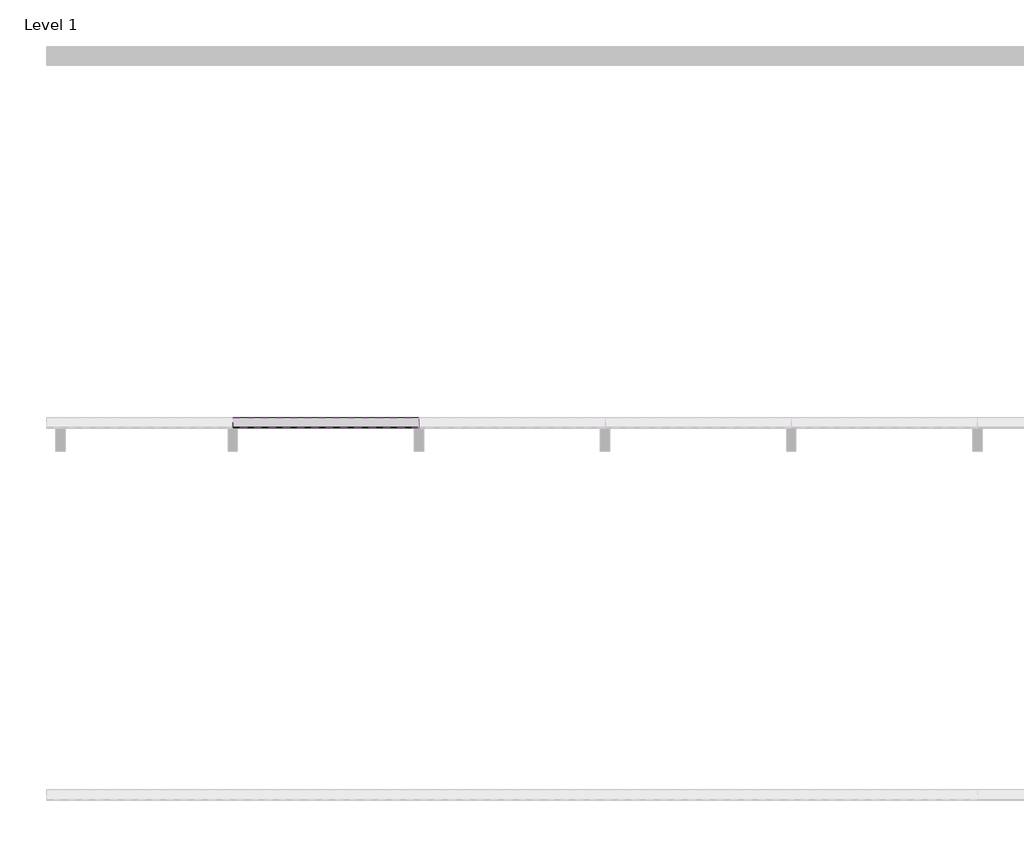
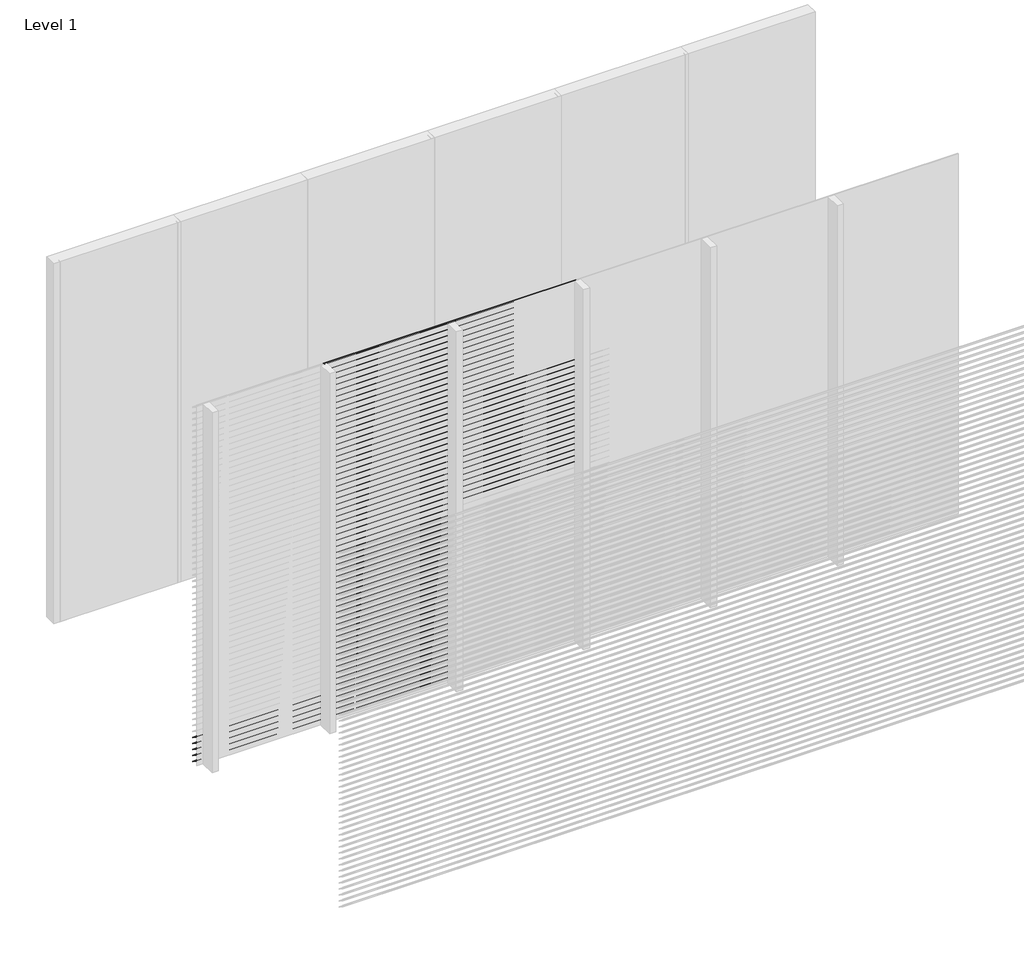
# One storey, part 3 of 18: 96 proxies.
"""IFC4 building model written with IfcOpenShell, lengths in millimetres."""

from ifc_helpers import new_model, si_unit, frame, origin, place, context, project, spatial, polyline, outline, extrude, element, save

model = new_model("IFC4")

# Units and contexts
model_context = context("Model", 3, world=origin())
ifc_project = project(units=[si_unit("LENGTHUNIT", "METRE", prefix="MILLI")], contexts=[model_context])

# Site, building, storey
site = spatial("IfcSite", under=ifc_project)
building = spatial("IfcBuilding", under=site)
storey = spatial("IfcBuildingStorey", under=building, Name="Level 1", Elevation=0.0)

# Proxies
placement = place(None, origin())
element("IfcBuildingElementProxy", 1, Name="Wall Sweeps", at=placement, inside=storey, context=model_context, shape_type="SweptSolid", body=[
    extrude(outline(polyline([(-17995.0, 3000.0), (-17995.0, 2991.0744429), (-17943.0, 2956.0), (-17943.0, 2950.0), (-17997.0, 2986.4234599), (-17997.0, 3000.0), (-17995.0, 3000.0)])), frame((2000.0000001, 0.0, 0.0), z_axis=(1.0, 0.0, 0.0), x_axis=(0.0, 1.0, 0.0)), (0.0, 0.0, 1.0), 999.9999999),
])
element("IfcBuildingElementProxy", 2, Name="Wall Sweeps", at=placement, inside=storey, context=model_context, shape_type="SweptSolid", body=[
    extrude(outline(polyline([(-17995.0, 2950.0), (-17995.0, 2941.0744429), (-17943.0, 2906.0), (-17943.0, 2900.0), (-17997.0, 2936.4234599), (-17997.0, 2950.0), (-17995.0, 2950.0)])), frame((2000.0000001, 0.0, 0.0), z_axis=(1.0, 0.0, 0.0), x_axis=(0.0, 1.0, 0.0)), (0.0, 0.0, 1.0), 999.9999999),
])
element("IfcBuildingElementProxy", 3, Name="Wall Sweeps", at=placement, inside=storey, context=model_context, shape_type="SweptSolid", body=[
    extrude(outline(polyline([(-17995.0, 2900.0), (-17995.0, 2891.0744429), (-17943.0, 2856.0), (-17943.0, 2850.0), (-17997.0, 2886.4234599), (-17997.0, 2900.0), (-17995.0, 2900.0)])), frame((2000.0000001, 0.0, 0.0), z_axis=(1.0, 0.0, 0.0), x_axis=(0.0, 1.0, 0.0)), (0.0, 0.0, 1.0), 999.9999999),
])
element("IfcBuildingElementProxy", 4, Name="Wall Sweeps", at=placement, inside=storey, context=model_context, shape_type="SweptSolid", body=[
    extrude(outline(polyline([(-17995.0, 2850.0), (-17995.0, 2841.0744429), (-17943.0, 2806.0), (-17943.0, 2800.0), (-17997.0, 2836.4234599), (-17997.0, 2850.0), (-17995.0, 2850.0)])), frame((2000.0000001, 0.0, 0.0), z_axis=(1.0, 0.0, 0.0), x_axis=(0.0, 1.0, 0.0)), (0.0, 0.0, 1.0), 999.9999999),
])
element("IfcBuildingElementProxy", 5, Name="Wall Sweeps", at=placement, inside=storey, context=model_context, shape_type="SweptSolid", body=[
    extrude(outline(polyline([(-17995.0, 2800.0), (-17995.0, 2791.0744429), (-17943.0, 2756.0), (-17943.0, 2750.0), (-17997.0, 2786.4234599), (-17997.0, 2800.0), (-17995.0, 2800.0)])), frame((2000.0000001, 0.0, 0.0), z_axis=(1.0, 0.0, 0.0), x_axis=(0.0, 1.0, 0.0)), (0.0, 0.0, 1.0), 999.9999999),
])
element("IfcBuildingElementProxy", 6, Name="Wall Sweeps", at=placement, inside=storey, context=model_context, shape_type="SweptSolid", body=[
    extrude(outline(polyline([(-17995.0, 2750.0), (-17995.0, 2741.0744429), (-17943.0, 2706.0), (-17943.0, 2700.0), (-17997.0, 2736.4234599), (-17997.0, 2750.0), (-17995.0, 2750.0)])), frame((2000.0000001, 0.0, 0.0), z_axis=(1.0, 0.0, 0.0), x_axis=(0.0, 1.0, 0.0)), (0.0, 0.0, 1.0), 999.9999999),
])
element("IfcBuildingElementProxy", 7, Name="Wall Sweeps", at=placement, inside=storey, context=model_context, shape_type="SweptSolid", body=[
    extrude(outline(polyline([(-17995.0, 2700.0), (-17995.0, 2691.0744429), (-17943.0, 2656.0), (-17943.0, 2650.0), (-17997.0, 2686.4234599), (-17997.0, 2700.0), (-17995.0, 2700.0)])), frame((2000.0000001, 0.0, 0.0), z_axis=(1.0, 0.0, 0.0), x_axis=(0.0, 1.0, 0.0)), (0.0, 0.0, 1.0), 999.9999999),
])
element("IfcBuildingElementProxy", 8, Name="Wall Sweeps", at=placement, inside=storey, context=model_context, shape_type="SweptSolid", body=[
    extrude(outline(polyline([(-17995.0, 2650.0), (-17995.0, 2641.0744429), (-17943.0, 2606.0), (-17943.0, 2600.0), (-17997.0, 2636.4234599), (-17997.0, 2650.0), (-17995.0, 2650.0)])), frame((2000.0000001, 0.0, 0.0), z_axis=(1.0, 0.0, 0.0), x_axis=(0.0, 1.0, 0.0)), (0.0, 0.0, 1.0), 999.9999999),
])
element("IfcBuildingElementProxy", 9, Name="Wall Sweeps", at=placement, inside=storey, context=model_context, shape_type="SweptSolid", body=[
    extrude(outline(polyline([(-17995.0, 2600.0), (-17995.0, 2591.0744429), (-17943.0, 2556.0), (-17943.0, 2550.0), (-17997.0, 2586.4234599), (-17997.0, 2600.0), (-17995.0, 2600.0)])), frame((2000.0000001, 0.0, 0.0), z_axis=(1.0, 0.0, 0.0), x_axis=(0.0, 1.0, 0.0)), (0.0, 0.0, 1.0), 999.9999999),
])
element("IfcBuildingElementProxy", 10, Name="Wall Sweeps", at=placement, inside=storey, context=model_context, shape_type="SweptSolid", body=[
    extrude(outline(polyline([(-17995.0, 2550.0), (-17995.0, 2541.0744429), (-17943.0, 2506.0), (-17943.0, 2500.0), (-17997.0, 2536.4234599), (-17997.0, 2550.0), (-17995.0, 2550.0)])), frame((2000.0000001, 0.0, 0.0), z_axis=(1.0, 0.0, 0.0), x_axis=(0.0, 1.0, 0.0)), (0.0, 0.0, 1.0), 999.9999999),
])
element("IfcBuildingElementProxy", 11, Name="Wall Sweeps", at=placement, inside=storey, context=model_context, shape_type="SweptSolid", body=[
    extrude(outline(polyline([(-17995.0, 2500.0), (-17995.0, 2491.0744429), (-17943.0, 2456.0), (-17943.0, 2450.0), (-17997.0, 2486.4234599), (-17997.0, 2500.0), (-17995.0, 2500.0)])), frame((2000.0000001, 0.0, 0.0), z_axis=(1.0, 0.0, 0.0), x_axis=(0.0, 1.0, 0.0)), (0.0, 0.0, 1.0), 999.9999999),
])
element("IfcBuildingElementProxy", 12, Name="Wall Sweeps", at=placement, inside=storey, context=model_context, shape_type="SweptSolid", body=[
    extrude(outline(polyline([(-17995.0, 2450.0), (-17995.0, 2441.0744429), (-17943.0, 2406.0), (-17943.0, 2400.0), (-17997.0, 2436.4234599), (-17997.0, 2450.0), (-17995.0, 2450.0)])), frame((2000.0000001, 0.0, 0.0), z_axis=(1.0, 0.0, 0.0), x_axis=(0.0, 1.0, 0.0)), (0.0, 0.0, 1.0), 999.9999999),
])
element("IfcBuildingElementProxy", 13, Name="Wall Sweeps", at=placement, inside=storey, context=model_context, shape_type="SweptSolid", body=[
    extrude(outline(polyline([(-17995.0, 2400.0), (-17995.0, 2391.0744429), (-17943.0, 2356.0), (-17943.0, 2350.0), (-17997.0, 2386.4234599), (-17997.0, 2400.0), (-17995.0, 2400.0)])), frame((2000.0000001, 0.0, 0.0), z_axis=(1.0, 0.0, 0.0), x_axis=(0.0, 1.0, 0.0)), (0.0, 0.0, 1.0), 999.9999999),
])
element("IfcBuildingElementProxy", 14, Name="Wall Sweeps", at=placement, inside=storey, context=model_context, shape_type="SweptSolid", body=[
    extrude(outline(polyline([(-17995.0, 2350.0), (-17995.0, 2341.0744429), (-17943.0, 2306.0), (-17943.0, 2300.0), (-17997.0, 2336.4234599), (-17997.0, 2350.0), (-17995.0, 2350.0)])), frame((2000.0000001, 0.0, 0.0), z_axis=(1.0, 0.0, 0.0), x_axis=(0.0, 1.0, 0.0)), (0.0, 0.0, 1.0), 999.9999999),
])
element("IfcBuildingElementProxy", 15, Name="Wall Sweeps", at=placement, inside=storey, context=model_context, shape_type="SweptSolid", body=[
    extrude(outline(polyline([(-17995.0, 2300.0), (-17995.0, 2291.0744429), (-17943.0, 2256.0), (-17943.0, 2250.0), (-17997.0, 2286.4234599), (-17997.0, 2300.0), (-17995.0, 2300.0)])), frame((2000.0000001, 0.0, 0.0), z_axis=(1.0, 0.0, 0.0), x_axis=(0.0, 1.0, 0.0)), (0.0, 0.0, 1.0), 999.9999999),
])
element("IfcBuildingElementProxy", 16, Name="Wall Sweeps", at=placement, inside=storey, context=model_context, shape_type="SweptSolid", body=[
    extrude(outline(polyline([(-17995.0, 2250.0), (-17995.0, 2241.0744429), (-17943.0, 2206.0), (-17943.0, 2200.0), (-17997.0, 2236.4234599), (-17997.0, 2250.0), (-17995.0, 2250.0)])), frame((2000.0000001, 0.0, 0.0), z_axis=(1.0, 0.0, 0.0), x_axis=(0.0, 1.0, 0.0)), (0.0, 0.0, 1.0), 999.9999999),
])
element("IfcBuildingElementProxy", 17, Name="Wall Sweeps", at=placement, inside=storey, context=model_context, shape_type="SweptSolid", body=[
    extrude(outline(polyline([(-17995.0, 2200.0), (-17995.0, 2191.0744429), (-17943.0, 2156.0), (-17943.0, 2150.0), (-17997.0, 2186.4234599), (-17997.0, 2200.0), (-17995.0, 2200.0)])), frame((2000.0000001, 0.0, 0.0), z_axis=(1.0, 0.0, 0.0), x_axis=(0.0, 1.0, 0.0)), (0.0, 0.0, 1.0), 999.9999999),
])
element("IfcBuildingElementProxy", 18, Name="Wall Sweeps", at=placement, inside=storey, context=model_context, shape_type="SweptSolid", body=[
    extrude(outline(polyline([(-17995.0, 2150.0), (-17995.0, 2141.0744429), (-17943.0, 2106.0), (-17943.0, 2100.0), (-17997.0, 2136.4234599), (-17997.0, 2150.0), (-17995.0, 2150.0)])), frame((2000.0000001, 0.0, 0.0), z_axis=(1.0, 0.0, 0.0), x_axis=(0.0, 1.0, 0.0)), (0.0, 0.0, 1.0), 999.9999999),
])
element("IfcBuildingElementProxy", 19, Name="Wall Sweeps", at=placement, inside=storey, context=model_context, shape_type="SweptSolid", body=[
    extrude(outline(polyline([(-17995.0, 2100.0), (-17995.0, 2091.0744429), (-17943.0, 2056.0), (-17943.0, 2050.0), (-17997.0, 2086.4234599), (-17997.0, 2100.0), (-17995.0, 2100.0)])), frame((2000.0000001, 0.0, 0.0), z_axis=(1.0, 0.0, 0.0), x_axis=(0.0, 1.0, 0.0)), (0.0, 0.0, 1.0), 999.9999999),
])
element("IfcBuildingElementProxy", 20, Name="Wall Sweeps", at=placement, inside=storey, context=model_context, shape_type="SweptSolid", body=[
    extrude(outline(polyline([(-17995.0, 2050.0), (-17995.0, 2041.0744429), (-17943.0, 2006.0), (-17943.0, 2000.0), (-17997.0, 2036.4234599), (-17997.0, 2050.0), (-17995.0, 2050.0)])), frame((2000.0000001, 0.0, 0.0), z_axis=(1.0, 0.0, 0.0), x_axis=(0.0, 1.0, 0.0)), (0.0, 0.0, 1.0), 999.9999999),
])
element("IfcBuildingElementProxy", 21, Name="Wall Sweeps", at=placement, inside=storey, context=model_context, shape_type="SweptSolid", body=[
    extrude(outline(polyline([(-17995.0, 2000.0), (-17995.0, 1991.0744429), (-17943.0, 1956.0), (-17943.0, 1950.0), (-17997.0, 1986.4234599), (-17997.0, 2000.0), (-17995.0, 2000.0)])), frame((2000.0000001, 0.0, 0.0), z_axis=(1.0, 0.0, 0.0), x_axis=(0.0, 1.0, 0.0)), (0.0, 0.0, 1.0), 999.9999999),
])
element("IfcBuildingElementProxy", 22, Name="Wall Sweeps", at=placement, inside=storey, context=model_context, shape_type="SweptSolid", body=[
    extrude(outline(polyline([(-17995.0, 1950.0), (-17995.0, 1941.0744429), (-17943.0, 1906.0), (-17943.0, 1900.0), (-17997.0, 1936.4234599), (-17997.0, 1950.0), (-17995.0, 1950.0)])), frame((2000.0000001, 0.0, 0.0), z_axis=(1.0, 0.0, 0.0), x_axis=(0.0, 1.0, 0.0)), (0.0, 0.0, 1.0), 999.9999999),
])
element("IfcBuildingElementProxy", 23, Name="Wall Sweeps", at=placement, inside=storey, context=model_context, shape_type="SweptSolid", body=[
    extrude(outline(polyline([(-17995.0, 1900.0), (-17995.0, 1891.0744429), (-17943.0, 1856.0), (-17943.0, 1850.0), (-17997.0, 1886.4234599), (-17997.0, 1900.0), (-17995.0, 1900.0)])), frame((2000.0000001, 0.0, 0.0), z_axis=(1.0, 0.0, 0.0), x_axis=(0.0, 1.0, 0.0)), (0.0, 0.0, 1.0), 999.9999999),
])
element("IfcBuildingElementProxy", 24, Name="Wall Sweeps", at=placement, inside=storey, context=model_context, shape_type="SweptSolid", body=[
    extrude(outline(polyline([(-17995.0, 1850.0), (-17995.0, 1841.0744429), (-17943.0, 1806.0), (-17943.0, 1800.0), (-17997.0, 1836.4234599), (-17997.0, 1850.0), (-17995.0, 1850.0)])), frame((2000.0000001, 0.0, 0.0), z_axis=(1.0, 0.0, 0.0), x_axis=(0.0, 1.0, 0.0)), (0.0, 0.0, 1.0), 999.9999999),
])
element("IfcBuildingElementProxy", 25, Name="Wall Sweeps", at=placement, inside=storey, context=model_context, shape_type="SweptSolid", body=[
    extrude(outline(polyline([(-17995.0, 1800.0), (-17995.0, 1791.0744429), (-17943.0, 1756.0), (-17943.0, 1750.0), (-17997.0, 1786.4234599), (-17997.0, 1800.0), (-17995.0, 1800.0)])), frame((2000.0000001, 0.0, 0.0), z_axis=(1.0, 0.0, 0.0), x_axis=(0.0, 1.0, 0.0)), (0.0, 0.0, 1.0), 999.9999999),
])
element("IfcBuildingElementProxy", 26, Name="Wall Sweeps", at=placement, inside=storey, context=model_context, shape_type="SweptSolid", body=[
    extrude(outline(polyline([(-17995.0, 1750.0), (-17995.0, 1741.0744429), (-17943.0, 1706.0), (-17943.0, 1700.0), (-17997.0, 1736.4234599), (-17997.0, 1750.0), (-17995.0, 1750.0)])), frame((2000.0000001, 0.0, 0.0), z_axis=(1.0, 0.0, 0.0), x_axis=(0.0, 1.0, 0.0)), (0.0, 0.0, 1.0), 999.9999999),
])
element("IfcBuildingElementProxy", 27, Name="Wall Sweeps", at=placement, inside=storey, context=model_context, shape_type="SweptSolid", body=[
    extrude(outline(polyline([(-17995.0, 1700.0), (-17995.0, 1691.0744429), (-17943.0, 1656.0), (-17943.0, 1650.0), (-17997.0, 1686.4234599), (-17997.0, 1700.0), (-17995.0, 1700.0)])), frame((2000.0000001, 0.0, 0.0), z_axis=(1.0, 0.0, 0.0), x_axis=(0.0, 1.0, 0.0)), (0.0, 0.0, 1.0), 999.9999999),
])
element("IfcBuildingElementProxy", 28, Name="Wall Sweeps", at=placement, inside=storey, context=model_context, shape_type="SweptSolid", body=[
    extrude(outline(polyline([(-17995.0, 1650.0), (-17995.0, 1641.0744429), (-17943.0, 1606.0), (-17943.0, 1600.0), (-17997.0, 1636.4234599), (-17997.0, 1650.0), (-17995.0, 1650.0)])), frame((2000.0000001, 0.0, 0.0), z_axis=(1.0, 0.0, 0.0), x_axis=(0.0, 1.0, 0.0)), (0.0, 0.0, 1.0), 999.9999999),
])
element("IfcBuildingElementProxy", 29, Name="Wall Sweeps", at=placement, inside=storey, context=model_context, shape_type="SweptSolid", body=[
    extrude(outline(polyline([(-17995.0, 1600.0), (-17995.0, 1591.0744429), (-17943.0, 1556.0), (-17943.0, 1550.0), (-17997.0, 1586.4234599), (-17997.0, 1600.0), (-17995.0, 1600.0)])), frame((2000.0000001, 0.0, 0.0), z_axis=(1.0, 0.0, 0.0), x_axis=(0.0, 1.0, 0.0)), (0.0, 0.0, 1.0), 999.9999999),
])
element("IfcBuildingElementProxy", 30, Name="Wall Sweeps", at=placement, inside=storey, context=model_context, shape_type="SweptSolid", body=[
    extrude(outline(polyline([(-17995.0, 1550.0), (-17995.0, 1541.0744429), (-17943.0, 1506.0), (-17943.0, 1500.0), (-17997.0, 1536.4234599), (-17997.0, 1550.0), (-17995.0, 1550.0)])), frame((2000.0000001, 0.0, 0.0), z_axis=(1.0, 0.0, 0.0), x_axis=(0.0, 1.0, 0.0)), (0.0, 0.0, 1.0), 999.9999999),
])
element("IfcBuildingElementProxy", 31, Name="Wall Sweeps", at=placement, inside=storey, context=model_context, shape_type="SweptSolid", body=[
    extrude(outline(polyline([(-17995.0, 1500.0), (-17995.0, 1491.0744429), (-17943.0, 1456.0), (-17943.0, 1450.0), (-17997.0, 1486.4234599), (-17997.0, 1500.0), (-17995.0, 1500.0)])), frame((2000.0000001, 0.0, 0.0), z_axis=(1.0, 0.0, 0.0), x_axis=(0.0, 1.0, 0.0)), (0.0, 0.0, 1.0), 999.9999999),
])
element("IfcBuildingElementProxy", 32, Name="Wall Sweeps", at=placement, inside=storey, context=model_context, shape_type="SweptSolid", body=[
    extrude(outline(polyline([(-17995.0, 3000.0), (-17995.0, 2991.0744429), (-17943.0, 2956.0), (-17943.0, 2950.0), (-17997.0, 2986.4234599), (-17997.0, 3000.0), (-17995.0, 3000.0)])), frame((1000.0000002, 0.0, 0.0), z_axis=(1.0, 0.0, 0.0), x_axis=(0.0, 1.0, 0.0)), (0.0, 0.0, 1.0), 999.9999999),
])
element("IfcBuildingElementProxy", 33, Name="Wall Sweeps", at=placement, inside=storey, context=model_context, shape_type="SweptSolid", body=[
    extrude(outline(polyline([(-17995.0, 2950.0), (-17995.0, 2941.0744429), (-17943.0, 2906.0), (-17943.0, 2900.0), (-17997.0, 2936.4234599), (-17997.0, 2950.0), (-17995.0, 2950.0)])), frame((1000.0000002, 0.0, 0.0), z_axis=(1.0, 0.0, 0.0), x_axis=(0.0, 1.0, 0.0)), (0.0, 0.0, 1.0), 999.9999999),
])
element("IfcBuildingElementProxy", 34, Name="Wall Sweeps", at=placement, inside=storey, context=model_context, shape_type="SweptSolid", body=[
    extrude(outline(polyline([(-17995.0, 2900.0), (-17995.0, 2891.0744429), (-17943.0, 2856.0), (-17943.0, 2850.0), (-17997.0, 2886.4234599), (-17997.0, 2900.0), (-17995.0, 2900.0)])), frame((1000.0000002, 0.0, 0.0), z_axis=(1.0, 0.0, 0.0), x_axis=(0.0, 1.0, 0.0)), (0.0, 0.0, 1.0), 999.9999999),
])
element("IfcBuildingElementProxy", 35, Name="Wall Sweeps", at=placement, inside=storey, context=model_context, shape_type="SweptSolid", body=[
    extrude(outline(polyline([(-17995.0, 2850.0), (-17995.0, 2841.0744429), (-17943.0, 2806.0), (-17943.0, 2800.0), (-17997.0, 2836.4234599), (-17997.0, 2850.0), (-17995.0, 2850.0)])), frame((1000.0000002, 0.0, 0.0), z_axis=(1.0, 0.0, 0.0), x_axis=(0.0, 1.0, 0.0)), (0.0, 0.0, 1.0), 999.9999999),
])
element("IfcBuildingElementProxy", 36, Name="Wall Sweeps", at=placement, inside=storey, context=model_context, shape_type="SweptSolid", body=[
    extrude(outline(polyline([(-17995.0, 2800.0), (-17995.0, 2791.0744429), (-17943.0, 2756.0), (-17943.0, 2750.0), (-17997.0, 2786.4234599), (-17997.0, 2800.0), (-17995.0, 2800.0)])), frame((1000.0000002, 0.0, 0.0), z_axis=(1.0, 0.0, 0.0), x_axis=(0.0, 1.0, 0.0)), (0.0, 0.0, 1.0), 999.9999999),
])
element("IfcBuildingElementProxy", 37, Name="Wall Sweeps", at=placement, inside=storey, context=model_context, shape_type="SweptSolid", body=[
    extrude(outline(polyline([(-17995.0, 2750.0), (-17995.0, 2741.0744429), (-17943.0, 2706.0), (-17943.0, 2700.0), (-17997.0, 2736.4234599), (-17997.0, 2750.0), (-17995.0, 2750.0)])), frame((1000.0000002, 0.0, 0.0), z_axis=(1.0, 0.0, 0.0), x_axis=(0.0, 1.0, 0.0)), (0.0, 0.0, 1.0), 999.9999999),
])
element("IfcBuildingElementProxy", 38, Name="Wall Sweeps", at=placement, inside=storey, context=model_context, shape_type="SweptSolid", body=[
    extrude(outline(polyline([(-17995.0, 2700.0), (-17995.0, 2691.0744429), (-17943.0, 2656.0), (-17943.0, 2650.0), (-17997.0, 2686.4234599), (-17997.0, 2700.0), (-17995.0, 2700.0)])), frame((1000.0000002, 0.0, 0.0), z_axis=(1.0, 0.0, 0.0), x_axis=(0.0, 1.0, 0.0)), (0.0, 0.0, 1.0), 999.9999999),
])
element("IfcBuildingElementProxy", 39, Name="Wall Sweeps", at=placement, inside=storey, context=model_context, shape_type="SweptSolid", body=[
    extrude(outline(polyline([(-17995.0, 2650.0), (-17995.0, 2641.0744429), (-17943.0, 2606.0), (-17943.0, 2600.0), (-17997.0, 2636.4234599), (-17997.0, 2650.0), (-17995.0, 2650.0)])), frame((1000.0000002, 0.0, 0.0), z_axis=(1.0, 0.0, 0.0), x_axis=(0.0, 1.0, 0.0)), (0.0, 0.0, 1.0), 999.9999999),
])
element("IfcBuildingElementProxy", 40, Name="Wall Sweeps", at=placement, inside=storey, context=model_context, shape_type="SweptSolid", body=[
    extrude(outline(polyline([(-17995.0, 2600.0), (-17995.0, 2591.0744429), (-17943.0, 2556.0), (-17943.0, 2550.0), (-17997.0, 2586.4234599), (-17997.0, 2600.0), (-17995.0, 2600.0)])), frame((1000.0000002, 0.0, 0.0), z_axis=(1.0, 0.0, 0.0), x_axis=(0.0, 1.0, 0.0)), (0.0, 0.0, 1.0), 999.9999999),
])
element("IfcBuildingElementProxy", 41, Name="Wall Sweeps", at=placement, inside=storey, context=model_context, shape_type="SweptSolid", body=[
    extrude(outline(polyline([(-17995.0, 2550.0), (-17995.0, 2541.0744429), (-17943.0, 2506.0), (-17943.0, 2500.0), (-17997.0, 2536.4234599), (-17997.0, 2550.0), (-17995.0, 2550.0)])), frame((1000.0000002, 0.0, 0.0), z_axis=(1.0, 0.0, 0.0), x_axis=(0.0, 1.0, 0.0)), (0.0, 0.0, 1.0), 999.9999999),
])
element("IfcBuildingElementProxy", 42, Name="Wall Sweeps", at=placement, inside=storey, context=model_context, shape_type="SweptSolid", body=[
    extrude(outline(polyline([(-17995.0, 2500.0), (-17995.0, 2491.0744429), (-17943.0, 2456.0), (-17943.0, 2450.0), (-17997.0, 2486.4234599), (-17997.0, 2500.0), (-17995.0, 2500.0)])), frame((1000.0000002, 0.0, 0.0), z_axis=(1.0, 0.0, 0.0), x_axis=(0.0, 1.0, 0.0)), (0.0, 0.0, 1.0), 999.9999999),
])
element("IfcBuildingElementProxy", 43, Name="Wall Sweeps", at=placement, inside=storey, context=model_context, shape_type="SweptSolid", body=[
    extrude(outline(polyline([(-17995.0, 2450.0), (-17995.0, 2441.0744429), (-17943.0, 2406.0), (-17943.0, 2400.0), (-17997.0, 2436.4234599), (-17997.0, 2450.0), (-17995.0, 2450.0)])), frame((1000.0000002, 0.0, 0.0), z_axis=(1.0, 0.0, 0.0), x_axis=(0.0, 1.0, 0.0)), (0.0, 0.0, 1.0), 999.9999999),
])
element("IfcBuildingElementProxy", 44, Name="Wall Sweeps", at=placement, inside=storey, context=model_context, shape_type="SweptSolid", body=[
    extrude(outline(polyline([(-17995.0, 2400.0), (-17995.0, 2391.0744429), (-17943.0, 2356.0), (-17943.0, 2350.0), (-17997.0, 2386.4234599), (-17997.0, 2400.0), (-17995.0, 2400.0)])), frame((1000.0000002, 0.0, 0.0), z_axis=(1.0, 0.0, 0.0), x_axis=(0.0, 1.0, 0.0)), (0.0, 0.0, 1.0), 999.9999999),
])
element("IfcBuildingElementProxy", 45, Name="Wall Sweeps", at=placement, inside=storey, context=model_context, shape_type="SweptSolid", body=[
    extrude(outline(polyline([(-17995.0, 2350.0), (-17995.0, 2341.0744429), (-17943.0, 2306.0), (-17943.0, 2300.0), (-17997.0, 2336.4234599), (-17997.0, 2350.0), (-17995.0, 2350.0)])), frame((1000.0000002, 0.0, 0.0), z_axis=(1.0, 0.0, 0.0), x_axis=(0.0, 1.0, 0.0)), (0.0, 0.0, 1.0), 999.9999999),
])
element("IfcBuildingElementProxy", 46, Name="Wall Sweeps", at=placement, inside=storey, context=model_context, shape_type="SweptSolid", body=[
    extrude(outline(polyline([(-17995.0, 2300.0), (-17995.0, 2291.0744429), (-17943.0, 2256.0), (-17943.0, 2250.0), (-17997.0, 2286.4234599), (-17997.0, 2300.0), (-17995.0, 2300.0)])), frame((1000.0000002, 0.0, 0.0), z_axis=(1.0, 0.0, 0.0), x_axis=(0.0, 1.0, 0.0)), (0.0, 0.0, 1.0), 999.9999999),
])
element("IfcBuildingElementProxy", 47, Name="Wall Sweeps", at=placement, inside=storey, context=model_context, shape_type="SweptSolid", body=[
    extrude(outline(polyline([(-17995.0, 2250.0), (-17995.0, 2241.0744429), (-17943.0, 2206.0), (-17943.0, 2200.0), (-17997.0, 2236.4234599), (-17997.0, 2250.0), (-17995.0, 2250.0)])), frame((1000.0000002, 0.0, 0.0), z_axis=(1.0, 0.0, 0.0), x_axis=(0.0, 1.0, 0.0)), (0.0, 0.0, 1.0), 999.9999999),
])
element("IfcBuildingElementProxy", 48, Name="Wall Sweeps", at=placement, inside=storey, context=model_context, shape_type="SweptSolid", body=[
    extrude(outline(polyline([(-17995.0, 2200.0), (-17995.0, 2191.0744429), (-17943.0, 2156.0), (-17943.0, 2150.0), (-17997.0, 2186.4234599), (-17997.0, 2200.0), (-17995.0, 2200.0)])), frame((1000.0000002, 0.0, 0.0), z_axis=(1.0, 0.0, 0.0), x_axis=(0.0, 1.0, 0.0)), (0.0, 0.0, 1.0), 999.9999999),
])
element("IfcBuildingElementProxy", 49, Name="Wall Sweeps", at=placement, inside=storey, context=model_context, shape_type="SweptSolid", body=[
    extrude(outline(polyline([(-17995.0, 2150.0), (-17995.0, 2141.0744429), (-17943.0, 2106.0), (-17943.0, 2100.0), (-17997.0, 2136.4234599), (-17997.0, 2150.0), (-17995.0, 2150.0)])), frame((1000.0000002, 0.0, 0.0), z_axis=(1.0, 0.0, 0.0), x_axis=(0.0, 1.0, 0.0)), (0.0, 0.0, 1.0), 999.9999999),
])
element("IfcBuildingElementProxy", 50, Name="Wall Sweeps", at=placement, inside=storey, context=model_context, shape_type="SweptSolid", body=[
    extrude(outline(polyline([(-17995.0, 2100.0), (-17995.0, 2091.0744429), (-17943.0, 2056.0), (-17943.0, 2050.0), (-17997.0, 2086.4234599), (-17997.0, 2100.0), (-17995.0, 2100.0)])), frame((1000.0000002, 0.0, 0.0), z_axis=(1.0, 0.0, 0.0), x_axis=(0.0, 1.0, 0.0)), (0.0, 0.0, 1.0), 999.9999999),
])
element("IfcBuildingElementProxy", 51, Name="Wall Sweeps", at=placement, inside=storey, context=model_context, shape_type="SweptSolid", body=[
    extrude(outline(polyline([(-17995.0, 2050.0), (-17995.0, 2041.0744429), (-17943.0, 2006.0), (-17943.0, 2000.0), (-17997.0, 2036.4234599), (-17997.0, 2050.0), (-17995.0, 2050.0)])), frame((1000.0000002, 0.0, 0.0), z_axis=(1.0, 0.0, 0.0), x_axis=(0.0, 1.0, 0.0)), (0.0, 0.0, 1.0), 999.9999999),
])
element("IfcBuildingElementProxy", 52, Name="Wall Sweeps", at=placement, inside=storey, context=model_context, shape_type="SweptSolid", body=[
    extrude(outline(polyline([(-17995.0, 2000.0), (-17995.0, 1991.0744429), (-17943.0, 1956.0), (-17943.0, 1950.0), (-17997.0, 1986.4234599), (-17997.0, 2000.0), (-17995.0, 2000.0)])), frame((1000.0000002, 0.0, 0.0), z_axis=(1.0, 0.0, 0.0), x_axis=(0.0, 1.0, 0.0)), (0.0, 0.0, 1.0), 999.9999999),
])
element("IfcBuildingElementProxy", 53, Name="Wall Sweeps", at=placement, inside=storey, context=model_context, shape_type="SweptSolid", body=[
    extrude(outline(polyline([(-17995.0, 1950.0), (-17995.0, 1941.0744429), (-17943.0, 1906.0), (-17943.0, 1900.0), (-17997.0, 1936.4234599), (-17997.0, 1950.0), (-17995.0, 1950.0)])), frame((1000.0000002, 0.0, 0.0), z_axis=(1.0, 0.0, 0.0), x_axis=(0.0, 1.0, 0.0)), (0.0, 0.0, 1.0), 999.9999999),
])
element("IfcBuildingElementProxy", 54, Name="Wall Sweeps", at=placement, inside=storey, context=model_context, shape_type="SweptSolid", body=[
    extrude(outline(polyline([(-17995.0, 1900.0), (-17995.0, 1891.0744429), (-17943.0, 1856.0), (-17943.0, 1850.0), (-17997.0, 1886.4234599), (-17997.0, 1900.0), (-17995.0, 1900.0)])), frame((1000.0000002, 0.0, 0.0), z_axis=(1.0, 0.0, 0.0), x_axis=(0.0, 1.0, 0.0)), (0.0, 0.0, 1.0), 999.9999999),
])
element("IfcBuildingElementProxy", 55, Name="Wall Sweeps", at=placement, inside=storey, context=model_context, shape_type="SweptSolid", body=[
    extrude(outline(polyline([(-17995.0, 1850.0), (-17995.0, 1841.0744429), (-17943.0, 1806.0), (-17943.0, 1800.0), (-17997.0, 1836.4234599), (-17997.0, 1850.0), (-17995.0, 1850.0)])), frame((1000.0000002, 0.0, 0.0), z_axis=(1.0, 0.0, 0.0), x_axis=(0.0, 1.0, 0.0)), (0.0, 0.0, 1.0), 999.9999999),
])
element("IfcBuildingElementProxy", 56, Name="Wall Sweeps", at=placement, inside=storey, context=model_context, shape_type="SweptSolid", body=[
    extrude(outline(polyline([(-17995.0, 1800.0), (-17995.0, 1791.0744429), (-17943.0, 1756.0), (-17943.0, 1750.0), (-17997.0, 1786.4234599), (-17997.0, 1800.0), (-17995.0, 1800.0)])), frame((1000.0000002, 0.0, 0.0), z_axis=(1.0, 0.0, 0.0), x_axis=(0.0, 1.0, 0.0)), (0.0, 0.0, 1.0), 999.9999999),
])
element("IfcBuildingElementProxy", 57, Name="Wall Sweeps", at=placement, inside=storey, context=model_context, shape_type="SweptSolid", body=[
    extrude(outline(polyline([(-17995.0, 1750.0), (-17995.0, 1741.0744429), (-17943.0, 1706.0), (-17943.0, 1700.0), (-17997.0, 1736.4234599), (-17997.0, 1750.0), (-17995.0, 1750.0)])), frame((1000.0000002, 0.0, 0.0), z_axis=(1.0, 0.0, 0.0), x_axis=(0.0, 1.0, 0.0)), (0.0, 0.0, 1.0), 999.9999999),
])
element("IfcBuildingElementProxy", 58, Name="Wall Sweeps", at=placement, inside=storey, context=model_context, shape_type="SweptSolid", body=[
    extrude(outline(polyline([(-17995.0, 1700.0), (-17995.0, 1691.0744429), (-17943.0, 1656.0), (-17943.0, 1650.0), (-17997.0, 1686.4234599), (-17997.0, 1700.0), (-17995.0, 1700.0)])), frame((1000.0000002, 0.0, 0.0), z_axis=(1.0, 0.0, 0.0), x_axis=(0.0, 1.0, 0.0)), (0.0, 0.0, 1.0), 999.9999999),
])
element("IfcBuildingElementProxy", 59, Name="Wall Sweeps", at=placement, inside=storey, context=model_context, shape_type="SweptSolid", body=[
    extrude(outline(polyline([(-17995.0, 1650.0), (-17995.0, 1641.0744429), (-17943.0, 1606.0), (-17943.0, 1600.0), (-17997.0, 1636.4234599), (-17997.0, 1650.0), (-17995.0, 1650.0)])), frame((1000.0000002, 0.0, 0.0), z_axis=(1.0, 0.0, 0.0), x_axis=(0.0, 1.0, 0.0)), (0.0, 0.0, 1.0), 999.9999999),
])
element("IfcBuildingElementProxy", 60, Name="Wall Sweeps", at=placement, inside=storey, context=model_context, shape_type="SweptSolid", body=[
    extrude(outline(polyline([(-17995.0, 1600.0), (-17995.0, 1591.0744429), (-17943.0, 1556.0), (-17943.0, 1550.0), (-17997.0, 1586.4234599), (-17997.0, 1600.0), (-17995.0, 1600.0)])), frame((1000.0000002, 0.0, 0.0), z_axis=(1.0, 0.0, 0.0), x_axis=(0.0, 1.0, 0.0)), (0.0, 0.0, 1.0), 999.9999999),
])
element("IfcBuildingElementProxy", 61, Name="Wall Sweeps", at=placement, inside=storey, context=model_context, shape_type="SweptSolid", body=[
    extrude(outline(polyline([(-17995.0, 1550.0), (-17995.0, 1541.0744429), (-17943.0, 1506.0), (-17943.0, 1500.0), (-17997.0, 1536.4234599), (-17997.0, 1550.0), (-17995.0, 1550.0)])), frame((1000.0000002, 0.0, 0.0), z_axis=(1.0, 0.0, 0.0), x_axis=(0.0, 1.0, 0.0)), (0.0, 0.0, 1.0), 999.9999999),
])
element("IfcBuildingElementProxy", 62, Name="Wall Sweeps", at=placement, inside=storey, context=model_context, shape_type="SweptSolid", body=[
    extrude(outline(polyline([(-17995.0, 1500.0), (-17995.0, 1491.0744429), (-17943.0, 1456.0), (-17943.0, 1450.0), (-17997.0, 1486.4234599), (-17997.0, 1500.0), (-17995.0, 1500.0)])), frame((1000.0000002, 0.0, 0.0), z_axis=(1.0, 0.0, 0.0), x_axis=(0.0, 1.0, 0.0)), (0.0, 0.0, 1.0), 999.9999999),
])
element("IfcBuildingElementProxy", 63, Name="Wall Sweeps", at=placement, inside=storey, context=model_context, shape_type="SweptSolid", body=[
    extrude(outline(polyline([(-17995.0, 1450.0), (-17995.0, 1441.0744429), (-17943.0, 1406.0), (-17943.0, 1400.0), (-17997.0, 1436.4234599), (-17997.0, 1450.0), (-17995.0, 1450.0)])), frame((1000.0000002, 0.0, 0.0), z_axis=(1.0, 0.0, 0.0), x_axis=(0.0, 1.0, 0.0)), (0.0, 0.0, 1.0), 999.9999999),
])
element("IfcBuildingElementProxy", 64, Name="Wall Sweeps", at=placement, inside=storey, context=model_context, shape_type="SweptSolid", body=[
    extrude(outline(polyline([(-17995.0, 1400.0), (-17995.0, 1391.0744429), (-17943.0, 1356.0), (-17943.0, 1350.0), (-17997.0, 1386.4234599), (-17997.0, 1400.0), (-17995.0, 1400.0)])), frame((1000.0000002, 0.0, 0.0), z_axis=(1.0, 0.0, 0.0), x_axis=(0.0, 1.0, 0.0)), (0.0, 0.0, 1.0), 999.9999999),
])
element("IfcBuildingElementProxy", 65, Name="Wall Sweeps", at=placement, inside=storey, context=model_context, shape_type="SweptSolid", body=[
    extrude(outline(polyline([(-17995.0, 1350.0), (-17995.0, 1341.0744429), (-17943.0, 1306.0), (-17943.0, 1300.0), (-17997.0, 1336.4234599), (-17997.0, 1350.0), (-17995.0, 1350.0)])), frame((1000.0000002, 0.0, 0.0), z_axis=(1.0, 0.0, 0.0), x_axis=(0.0, 1.0, 0.0)), (0.0, 0.0, 1.0), 999.9999999),
])
element("IfcBuildingElementProxy", 66, Name="Wall Sweeps", at=placement, inside=storey, context=model_context, shape_type="SweptSolid", body=[
    extrude(outline(polyline([(-17995.0, 1300.0), (-17995.0, 1291.0744429), (-17943.0, 1256.0), (-17943.0, 1250.0), (-17997.0, 1286.4234599), (-17997.0, 1300.0), (-17995.0, 1300.0)])), frame((1000.0000002, 0.0, 0.0), z_axis=(1.0, 0.0, 0.0), x_axis=(0.0, 1.0, 0.0)), (0.0, 0.0, 1.0), 999.9999999),
])
element("IfcBuildingElementProxy", 67, Name="Wall Sweeps", at=placement, inside=storey, context=model_context, shape_type="SweptSolid", body=[
    extrude(outline(polyline([(-17995.0, 1250.0), (-17995.0, 1241.0744429), (-17943.0, 1206.0), (-17943.0, 1200.0), (-17997.0, 1236.4234599), (-17997.0, 1250.0), (-17995.0, 1250.0)])), frame((1000.0000002, 0.0, 0.0), z_axis=(1.0, 0.0, 0.0), x_axis=(0.0, 1.0, 0.0)), (0.0, 0.0, 1.0), 999.9999999),
])
element("IfcBuildingElementProxy", 68, Name="Wall Sweeps", at=placement, inside=storey, context=model_context, shape_type="SweptSolid", body=[
    extrude(outline(polyline([(-17995.0, 1200.0), (-17995.0, 1191.0744429), (-17943.0, 1156.0), (-17943.0, 1150.0), (-17997.0, 1186.4234599), (-17997.0, 1200.0), (-17995.0, 1200.0)])), frame((1000.0000002, 0.0, 0.0), z_axis=(1.0, 0.0, 0.0), x_axis=(0.0, 1.0, 0.0)), (0.0, 0.0, 1.0), 999.9999999),
])
element("IfcBuildingElementProxy", 69, Name="Wall Sweeps", at=placement, inside=storey, context=model_context, shape_type="SweptSolid", body=[
    extrude(outline(polyline([(-17995.0, 1150.0), (-17995.0, 1141.0744429), (-17943.0, 1106.0), (-17943.0, 1100.0), (-17997.0, 1136.4234599), (-17997.0, 1150.0), (-17995.0, 1150.0)])), frame((1000.0000002, 0.0, 0.0), z_axis=(1.0, 0.0, 0.0), x_axis=(0.0, 1.0, 0.0)), (0.0, 0.0, 1.0), 999.9999999),
])
element("IfcBuildingElementProxy", 70, Name="Wall Sweeps", at=placement, inside=storey, context=model_context, shape_type="SweptSolid", body=[
    extrude(outline(polyline([(-17995.0, 1100.0), (-17995.0, 1091.0744429), (-17943.0, 1056.0), (-17943.0, 1050.0), (-17997.0, 1086.4234599), (-17997.0, 1100.0), (-17995.0, 1100.0)])), frame((1000.0000002, 0.0, 0.0), z_axis=(1.0, 0.0, 0.0), x_axis=(0.0, 1.0, 0.0)), (0.0, 0.0, 1.0), 999.9999999),
])
element("IfcBuildingElementProxy", 71, Name="Wall Sweeps", at=placement, inside=storey, context=model_context, shape_type="SweptSolid", body=[
    extrude(outline(polyline([(-17995.0, 1050.0), (-17995.0, 1041.0744429), (-17943.0, 1006.0), (-17943.0, 1000.0), (-17997.0, 1036.4234599), (-17997.0, 1050.0), (-17995.0, 1050.0)])), frame((1000.0000002, 0.0, 0.0), z_axis=(1.0, 0.0, 0.0), x_axis=(0.0, 1.0, 0.0)), (0.0, 0.0, 1.0), 999.9999999),
])
element("IfcBuildingElementProxy", 72, Name="Wall Sweeps", at=placement, inside=storey, context=model_context, shape_type="SweptSolid", body=[
    extrude(outline(polyline([(-17995.0, 1000.0), (-17995.0, 991.0744429), (-17943.0, 956.0), (-17943.0, 950.0), (-17997.0, 986.4234599), (-17997.0, 1000.0), (-17995.0, 1000.0)])), frame((1000.0000002, 0.0, 0.0), z_axis=(1.0, 0.0, 0.0), x_axis=(0.0, 1.0, 0.0)), (0.0, 0.0, 1.0), 999.9999999),
])
element("IfcBuildingElementProxy", 73, Name="Wall Sweeps", at=placement, inside=storey, context=model_context, shape_type="SweptSolid", body=[
    extrude(outline(polyline([(-17995.0, 950.0), (-17995.0, 941.0744429), (-17943.0, 906.0), (-17943.0, 900.0), (-17997.0, 936.4234599), (-17997.0, 950.0), (-17995.0, 950.0)])), frame((1000.0000002, 0.0, 0.0), z_axis=(1.0, 0.0, 0.0), x_axis=(0.0, 1.0, 0.0)), (0.0, 0.0, 1.0), 999.9999999),
])
element("IfcBuildingElementProxy", 74, Name="Wall Sweeps", at=placement, inside=storey, context=model_context, shape_type="SweptSolid", body=[
    extrude(outline(polyline([(-17995.0, 900.0), (-17995.0, 891.0744429), (-17943.0, 856.0), (-17943.0, 850.0), (-17997.0, 886.4234599), (-17997.0, 900.0), (-17995.0, 900.0)])), frame((1000.0000002, 0.0, 0.0), z_axis=(1.0, 0.0, 0.0), x_axis=(0.0, 1.0, 0.0)), (0.0, 0.0, 1.0), 999.9999999),
])
element("IfcBuildingElementProxy", 75, Name="Wall Sweeps", at=placement, inside=storey, context=model_context, shape_type="SweptSolid", body=[
    extrude(outline(polyline([(-17995.0, 850.0), (-17995.0, 841.0744429), (-17943.0, 806.0), (-17943.0, 800.0), (-17997.0, 836.4234599), (-17997.0, 850.0), (-17995.0, 850.0)])), frame((1000.0000002, 0.0, 0.0), z_axis=(1.0, 0.0, 0.0), x_axis=(0.0, 1.0, 0.0)), (0.0, 0.0, 1.0), 999.9999999),
])
element("IfcBuildingElementProxy", 76, Name="Wall Sweeps", at=placement, inside=storey, context=model_context, shape_type="SweptSolid", body=[
    extrude(outline(polyline([(-17995.0, 800.0), (-17995.0, 791.0744429), (-17943.0, 756.0), (-17943.0, 750.0), (-17997.0, 786.4234599), (-17997.0, 800.0), (-17995.0, 800.0)])), frame((1000.0000002, 0.0, 0.0), z_axis=(1.0, 0.0, 0.0), x_axis=(0.0, 1.0, 0.0)), (0.0, 0.0, 1.0), 999.9999999),
])
element("IfcBuildingElementProxy", 77, Name="Wall Sweeps", at=placement, inside=storey, context=model_context, shape_type="SweptSolid", body=[
    extrude(outline(polyline([(-17995.0, 750.0), (-17995.0, 741.0744429), (-17943.0, 706.0), (-17943.0, 700.0), (-17997.0, 736.4234599), (-17997.0, 750.0), (-17995.0, 750.0)])), frame((1000.0000002, 0.0, 0.0), z_axis=(1.0, 0.0, 0.0), x_axis=(0.0, 1.0, 0.0)), (0.0, 0.0, 1.0), 999.9999999),
])
element("IfcBuildingElementProxy", 78, Name="Wall Sweeps", at=placement, inside=storey, context=model_context, shape_type="SweptSolid", body=[
    extrude(outline(polyline([(-17995.0, 700.0), (-17995.0, 691.0744429), (-17943.0, 656.0), (-17943.0, 650.0), (-17997.0, 686.4234599), (-17997.0, 700.0), (-17995.0, 700.0)])), frame((1000.0000002, 0.0, 0.0), z_axis=(1.0, 0.0, 0.0), x_axis=(0.0, 1.0, 0.0)), (0.0, 0.0, 1.0), 999.9999999),
])
element("IfcBuildingElementProxy", 79, Name="Wall Sweeps", at=placement, inside=storey, context=model_context, shape_type="SweptSolid", body=[
    extrude(outline(polyline([(-17995.0, 650.0), (-17995.0, 641.0744429), (-17943.0, 606.0), (-17943.0, 600.0), (-17997.0, 636.4234599), (-17997.0, 650.0), (-17995.0, 650.0)])), frame((1000.0000002, 0.0, 0.0), z_axis=(1.0, 0.0, 0.0), x_axis=(0.0, 1.0, 0.0)), (0.0, 0.0, 1.0), 999.9999999),
])
element("IfcBuildingElementProxy", 80, Name="Wall Sweeps", at=placement, inside=storey, context=model_context, shape_type="SweptSolid", body=[
    extrude(outline(polyline([(-17995.0, 600.0), (-17995.0, 591.0744429), (-17943.0, 556.0), (-17943.0, 550.0), (-17997.0, 586.4234599), (-17997.0, 600.0), (-17995.0, 600.0)])), frame((1000.0000002, 0.0, 0.0), z_axis=(1.0, 0.0, 0.0), x_axis=(0.0, 1.0, 0.0)), (0.0, 0.0, 1.0), 999.9999999),
])
element("IfcBuildingElementProxy", 81, Name="Wall Sweeps", at=placement, inside=storey, context=model_context, shape_type="SweptSolid", body=[
    extrude(outline(polyline([(-17995.0, 550.0), (-17995.0, 541.0744429), (-17943.0, 506.0), (-17943.0, 500.0), (-17997.0, 536.4234599), (-17997.0, 550.0), (-17995.0, 550.0)])), frame((1000.0000002, 0.0, 0.0), z_axis=(1.0, 0.0, 0.0), x_axis=(0.0, 1.0, 0.0)), (0.0, 0.0, 1.0), 999.9999999),
])
element("IfcBuildingElementProxy", 82, Name="Wall Sweeps", at=placement, inside=storey, context=model_context, shape_type="SweptSolid", body=[
    extrude(outline(polyline([(-17995.0, 500.0), (-17995.0, 491.0744429), (-17943.0, 456.0), (-17943.0, 450.0), (-17997.0, 486.4234599), (-17997.0, 500.0), (-17995.0, 500.0)])), frame((1000.0000002, 0.0, 0.0), z_axis=(1.0, 0.0, 0.0), x_axis=(0.0, 1.0, 0.0)), (0.0, 0.0, 1.0), 999.9999999),
])
element("IfcBuildingElementProxy", 83, Name="Wall Sweeps", at=placement, inside=storey, context=model_context, shape_type="SweptSolid", body=[
    extrude(outline(polyline([(-17995.0, 450.0), (-17995.0, 441.0744429), (-17943.0, 406.0), (-17943.0, 400.0), (-17997.0, 436.4234599), (-17997.0, 450.0), (-17995.0, 450.0)])), frame((1000.0000002, 0.0, 0.0), z_axis=(1.0, 0.0, 0.0), x_axis=(0.0, 1.0, 0.0)), (0.0, 0.0, 1.0), 999.9999999),
])
element("IfcBuildingElementProxy", 84, Name="Wall Sweeps", at=placement, inside=storey, context=model_context, shape_type="SweptSolid", body=[
    extrude(outline(polyline([(-17995.0, 400.0), (-17995.0, 391.0744429), (-17943.0, 356.0), (-17943.0, 350.0), (-17997.0, 386.4234599), (-17997.0, 400.0), (-17995.0, 400.0)])), frame((1000.0000002, 0.0, 0.0), z_axis=(1.0, 0.0, 0.0), x_axis=(0.0, 1.0, 0.0)), (0.0, 0.0, 1.0), 999.9999999),
])
element("IfcBuildingElementProxy", 85, Name="Wall Sweeps", at=placement, inside=storey, context=model_context, shape_type="SweptSolid", body=[
    extrude(outline(polyline([(-17995.0, 350.0), (-17995.0, 341.0744429), (-17943.0, 306.0), (-17943.0, 300.0), (-17997.0, 336.4234599), (-17997.0, 350.0), (-17995.0, 350.0)])), frame((1000.0000002, 0.0, 0.0), z_axis=(1.0, 0.0, 0.0), x_axis=(0.0, 1.0, 0.0)), (0.0, 0.0, 1.0), 999.9999999),
])
element("IfcBuildingElementProxy", 86, Name="Wall Sweeps", at=placement, inside=storey, context=model_context, shape_type="SweptSolid", body=[
    extrude(outline(polyline([(-17995.0, 300.0), (-17995.0, 291.0744429), (-17943.0, 256.0), (-17943.0, 250.0), (-17997.0, 286.4234599), (-17997.0, 300.0), (-17995.0, 300.0)])), frame((1000.0000002, 0.0, 0.0), z_axis=(1.0, 0.0, 0.0), x_axis=(0.0, 1.0, 0.0)), (0.0, 0.0, 1.0), 999.9999999),
])
element("IfcBuildingElementProxy", 87, Name="Wall Sweeps", at=placement, inside=storey, context=model_context, shape_type="SweptSolid", body=[
    extrude(outline(polyline([(-17995.0, 250.0), (-17995.0, 241.0744429), (-17943.0, 206.0), (-17943.0, 200.0), (-17997.0, 236.4234599), (-17997.0, 250.0), (-17995.0, 250.0)])), frame((1000.0000002, 0.0, 0.0), z_axis=(1.0, 0.0, 0.0), x_axis=(0.0, 1.0, 0.0)), (0.0, 0.0, 1.0), 999.9999999),
])
element("IfcBuildingElementProxy", 88, Name="Wall Sweeps", at=placement, inside=storey, context=model_context, shape_type="SweptSolid", body=[
    extrude(outline(polyline([(-17995.0, 200.0), (-17995.0, 191.0744429), (-17943.0, 156.0), (-17943.0, 150.0), (-17997.0, 186.4234599), (-17997.0, 200.0), (-17995.0, 200.0)])), frame((1000.0000002, 0.0, 0.0), z_axis=(1.0, 0.0, 0.0), x_axis=(0.0, 1.0, 0.0)), (0.0, 0.0, 1.0), 999.9999999),
])
element("IfcBuildingElementProxy", 89, Name="Wall Sweeps", at=placement, inside=storey, context=model_context, shape_type="SweptSolid", body=[
    extrude(outline(polyline([(-17995.0, 150.0), (-17995.0, 141.0744429), (-17943.0, 106.0), (-17943.0, 100.0), (-17997.0, 136.4234599), (-17997.0, 150.0), (-17995.0, 150.0)])), frame((1000.0000002, 0.0, 0.0), z_axis=(1.0, 0.0, 0.0), x_axis=(0.0, 1.0, 0.0)), (0.0, 0.0, 1.0), 999.9999999),
])
element("IfcBuildingElementProxy", 90, Name="Wall Sweeps", at=placement, inside=storey, context=model_context, shape_type="SweptSolid", body=[
    extrude(outline(polyline([(-17995.0, 100.0), (-17995.0, 91.0744429), (-17943.0, 56.0), (-17943.0, 50.0), (-17997.0, 86.4234599), (-17997.0, 100.0), (-17995.0, 100.0)])), frame((1000.0000002, 0.0, 0.0), z_axis=(1.0, 0.0, 0.0), x_axis=(0.0, 1.0, 0.0)), (0.0, 0.0, 1.0), 999.9999999),
])
element("IfcBuildingElementProxy", 91, Name="Wall Sweeps", at=placement, inside=storey, context=model_context, shape_type="SweptSolid", body=[
    extrude(outline(polyline([(-17995.0, 50.0), (-17995.0, 41.0744429), (-17943.0, 6.0), (-17943.0, 0.0), (-17997.0, 36.4234599), (-17997.0, 50.0), (-17995.0, 50.0)])), frame((1000.0000002, 0.0, 0.0), z_axis=(1.0, 0.0, 0.0), x_axis=(0.0, 1.0, 0.0)), (0.0, 0.0, 1.0), 999.9999999),
])
element("IfcBuildingElementProxy", 92, Name="Wall Sweeps", at=placement, inside=storey, context=model_context, shape_type="SweptSolid", body=[
    extrude(outline(polyline([(-17995.0, 250.0), (-17995.0, 241.0744429), (-17943.0, 206.0), (-17943.0, 200.0), (-17997.0, 236.4234599), (-17997.0, 250.0), (-17995.0, 250.0)])), frame((0.0, 0.0, 0.0), z_axis=(1.0, 0.0, 0.0), x_axis=(0.0, 1.0, 0.0)), (0.0, 0.0, 1.0), 1000.0000002),
])
element("IfcBuildingElementProxy", 93, Name="Wall Sweeps", at=placement, inside=storey, context=model_context, shape_type="SweptSolid", body=[
    extrude(outline(polyline([(-17995.0, 200.0), (-17995.0, 191.0744429), (-17943.0, 156.0), (-17943.0, 150.0), (-17997.0, 186.4234599), (-17997.0, 200.0), (-17995.0, 200.0)])), frame((0.0, 0.0, 0.0), z_axis=(1.0, 0.0, 0.0), x_axis=(0.0, 1.0, 0.0)), (0.0, 0.0, 1.0), 1000.0000002),
])
element("IfcBuildingElementProxy", 94, Name="Wall Sweeps", at=placement, inside=storey, context=model_context, shape_type="SweptSolid", body=[
    extrude(outline(polyline([(-17995.0, 150.0), (-17995.0, 141.0744429), (-17943.0, 106.0), (-17943.0, 100.0), (-17997.0, 136.4234599), (-17997.0, 150.0), (-17995.0, 150.0)])), frame((0.0, 0.0, 0.0), z_axis=(1.0, 0.0, 0.0), x_axis=(0.0, 1.0, 0.0)), (0.0, 0.0, 1.0), 1000.0000002),
])
element("IfcBuildingElementProxy", 95, Name="Wall Sweeps", at=placement, inside=storey, context=model_context, shape_type="SweptSolid", body=[
    extrude(outline(polyline([(-17995.0, 100.0), (-17995.0, 91.0744429), (-17943.0, 56.0), (-17943.0, 50.0), (-17997.0, 86.4234599), (-17997.0, 100.0), (-17995.0, 100.0)])), frame((0.0, 0.0, 0.0), z_axis=(1.0, 0.0, 0.0), x_axis=(0.0, 1.0, 0.0)), (0.0, 0.0, 1.0), 1000.0000002),
])
element("IfcBuildingElementProxy", 96, Name="Wall Sweeps", at=placement, inside=storey, context=model_context, shape_type="SweptSolid", body=[
    extrude(outline(polyline([(-17995.0, 50.0), (-17995.0, 41.0744429), (-17943.0, 6.0), (-17943.0, 0.0), (-17997.0, 36.4234599), (-17997.0, 50.0), (-17995.0, 50.0)])), frame((0.0, 0.0, 0.0), z_axis=(1.0, 0.0, 0.0), x_axis=(0.0, 1.0, 0.0)), (0.0, 0.0, 1.0), 1000.0000002),
])

save(model, "model.ifc")
